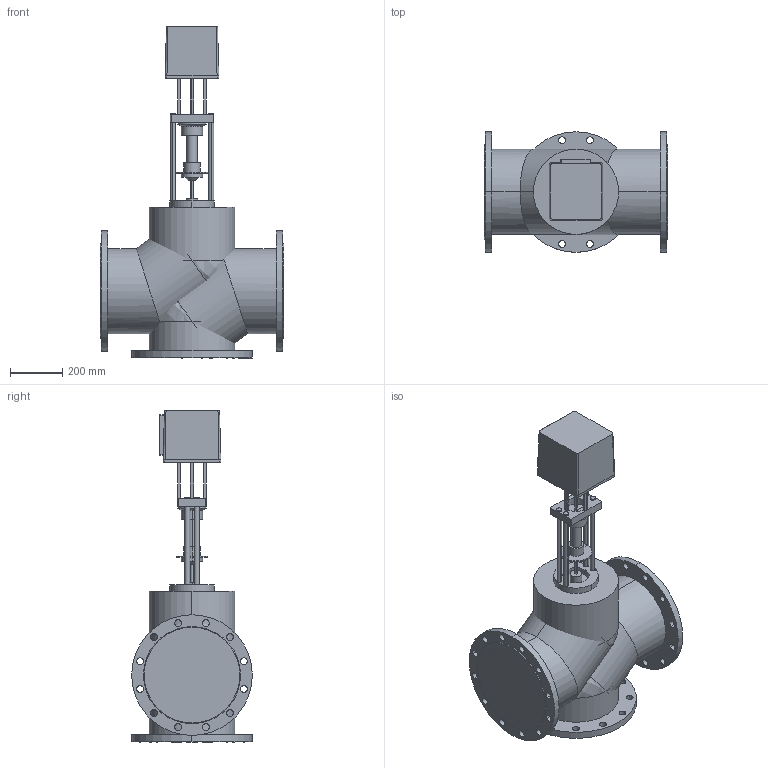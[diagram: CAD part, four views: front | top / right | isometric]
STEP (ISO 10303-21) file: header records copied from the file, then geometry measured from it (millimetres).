
FILE_DESCRIPTION(/* description */ (''),/* implementation_level */ '2;1');
FILE_NAME(/* name */ 'ТРК DN300 PN 1.6 МПа LEA 26000',/* time_stamp */ '2026-07-14T23:08:17+03:00',/* author */ (''),/* organization */ (''),/* preprocessor_version */ 'ST-DEVELOPER v20',/* originating_system */ '',/* authorisation */ '');
FILE_SCHEMA (('AP242_MANAGED_MODEL_BASED_3D_ENGINEERING_MIM_LF { 1 0 10303 442 1 1 4 }'));
Length unit declared in the file: millimetre
Products named in the file (13): TopLevelAssembly; Выдавливание; Модификатор; Модификатор_1; Выдавливание_
1; Выдавливание_
2; Вращение; Выдавливание_
3; Выдавливание_
4; 1600; Переход; Объемная геометрия 
присоединена; Объемная геометрия 
присоединена_1
Assembly tree (12 placements, depth 2):
  TopLevelAssembly
    Выдавливание
    Модификатор
    Модификатор_1
    Выдавливание_
1
    Выдавливание_
2
    Вращение
    Выдавливание_
3
    Выдавливание_
4
    1600
    Переход
    Объемная геометрия 
присоединена
    Объемная геометрия 
присоединена_1
Bounding box: 698 x 460 x 1266 mm (x, y, z)
Volume: 139878871.4 mm3; surface area: 4183442.5 mm2
Topology: 20 solids, 20 shells, 262 faces, 617 edges, 398 vertices
Faces by surface type: cylinder 158, plane 88, bspline 12, cone 4
Entity records: 8449 total; most frequent: CARTESIAN_POINT 1518, DIRECTION 1506, ORIENTED_EDGE 1218, AXIS2_PLACEMENT_3D 622, EDGE_CURVE 609, VERTEX_POINT 398, EDGE_LOOP 353, CIRCLE 335
